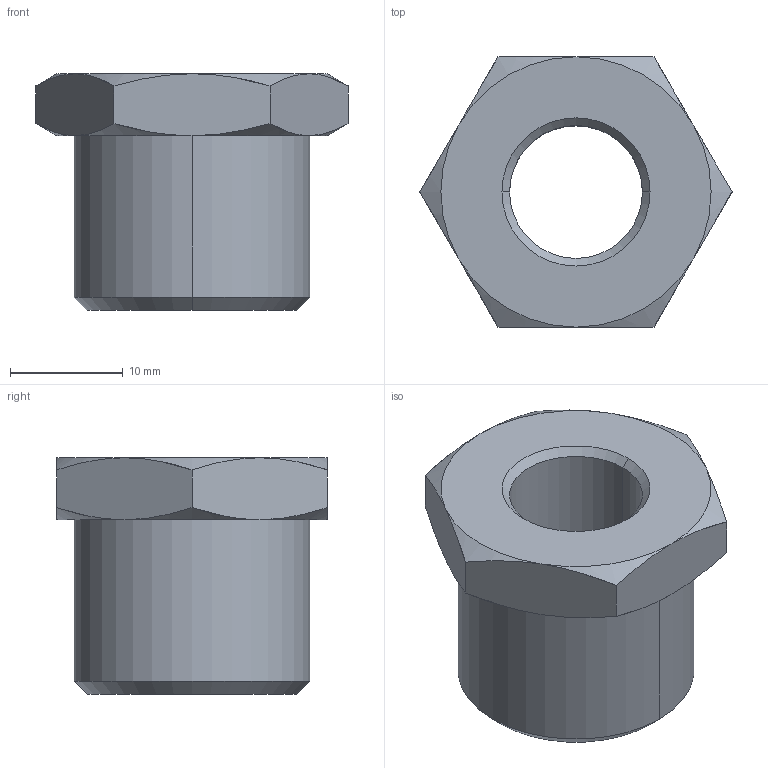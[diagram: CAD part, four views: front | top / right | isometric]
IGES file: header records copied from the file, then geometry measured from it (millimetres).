
Start section:  PTC IGES file: 1823391300.igs
Global section: file name: 1823391300.igs; native system: Creo Elements/Pro by Parametric Technology Corporation; preprocessor: 2012421; author: vol1hc; organization: Unknown; date: 20150623.140659; units: millimetre
Bounding box: 27.71 x 24 x 21 mm (x, y, z)
Surface area: 2913.5 mm2 (no closed solid volume)
Topology: 0 solids, 0 shells, 31 faces, 156 edges, 156 vertices
Faces by surface type: revolution 22, bspline 9
